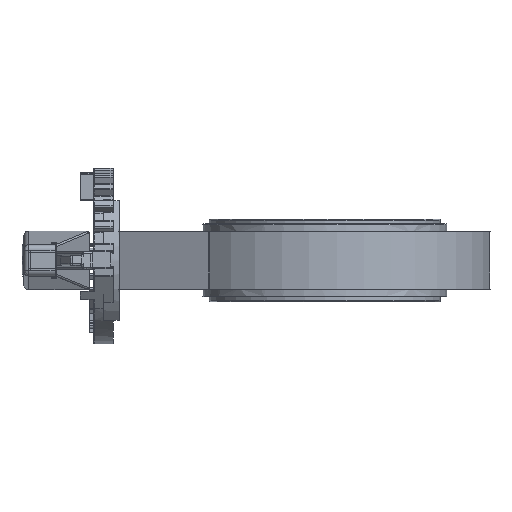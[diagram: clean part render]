
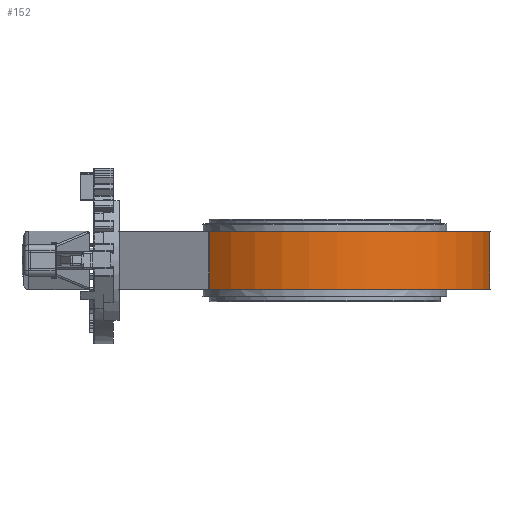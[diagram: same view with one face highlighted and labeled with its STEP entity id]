
A CAD part, left-side view. The second image highlights one B-rep face of the part: STEP entity #152.
In plain terms, the highlighted cylindrical face has radius 140 mm (diameter 280 mm), a partial arc.
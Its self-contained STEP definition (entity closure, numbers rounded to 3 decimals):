
#152=ADVANCED_FACE('',(#8966),#8968,.T.);
#8966=FACE_BOUND('',#8967,.T.);
#8967=EDGE_LOOP('',(#26670,#26671,#26672,#26673));
#8968=CYLINDRICAL_SURFACE('',#8969,140.);
#8969=AXIS2_PLACEMENT_3D('',#8970,#8971,#8972);
#8970=CARTESIAN_POINT('',(0.,0.,0.));
#8971=DIRECTION('',(0.,0.,1.));
#8972=DIRECTION('',(0.,-1.,0.));
#26670=ORIENTED_EDGE('',*,*,#31645,.T.);
#26671=ORIENTED_EDGE('',*,*,#31641,.F.);
#26672=ORIENTED_EDGE('',*,*,#31646,.F.);
#26673=ORIENTED_EDGE('',*,*,#31647,.F.);
#31641=EDGE_CURVE('',#34135,#34130,#34137,.T.);
#31645=EDGE_CURVE('',#34143,#34130,#34144,.T.);
#31646=EDGE_CURVE('',#34145,#34135,#34146,.T.);
#31647=EDGE_CURVE('',#34143,#34145,#34147,.T.);
#34130=VERTEX_POINT('',#38278);
#34135=VERTEX_POINT('',#38358);
#34137=CIRCLE('',#38363,140.);
#34143=VERTEX_POINT('',#38379);
#34144=LINE('',#38380,#38381);
#34145=VERTEX_POINT('',#38383);
#34146=LINE('',#38384,#38385);
#34147=CIRCLE('',#38387,140.);
#38278=CARTESIAN_POINT('',(-23.593,-137.998,24.));
#38358=CARTESIAN_POINT('',(-101.452,96.476,24.));
#38363=AXIS2_PLACEMENT_3D('',#38364,#38365,#38366);
#38364=CARTESIAN_POINT('',(0.,0.,24.));
#38365=DIRECTION('',(0.,0.,1.));
#38366=DIRECTION('',(-0.725,0.689,0.));
#38379=CARTESIAN_POINT('',(-23.593,-137.998,-24.));
#38380=CARTESIAN_POINT('',(-23.593,-137.998,-24.));
#38381=VECTOR('',#38382,1.);
#38382=DIRECTION('',(0.,0.,1.));
#38383=CARTESIAN_POINT('',(-101.452,96.476,-24.));
#38384=CARTESIAN_POINT('',(-101.452,96.476,-24.));
#38385=VECTOR('',#38386,1.);
#38386=DIRECTION('',(0.,0.,1.));
#38387=AXIS2_PLACEMENT_3D('',#38388,#38389,#38390);
#38388=CARTESIAN_POINT('',(0.,0.,-24.));
#38389=DIRECTION('',(0.,0.,-1.));
#38390=DIRECTION('',(-0.169,-0.986,0.));
